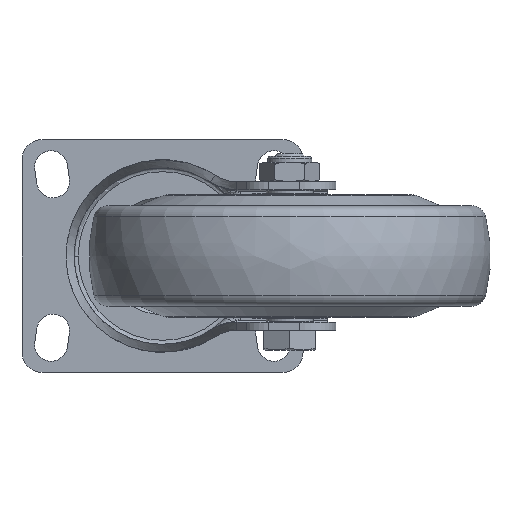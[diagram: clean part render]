
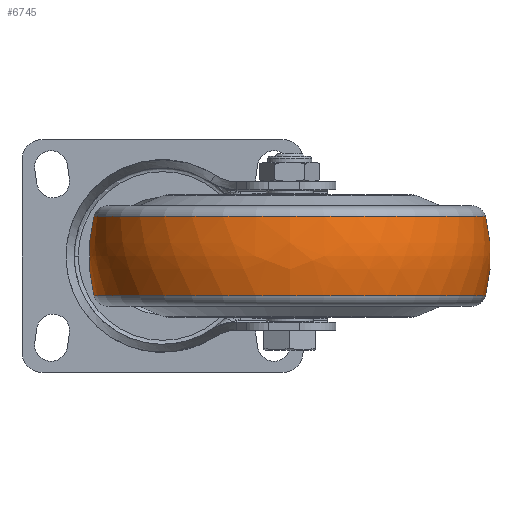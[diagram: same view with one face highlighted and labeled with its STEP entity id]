
A CAD part, front view. The second image highlights one B-rep face of the part: STEP entity #6745.
In plain terms, the highlighted free-form (B-spline) face has degree [3, 3] with [7, 4] control points.
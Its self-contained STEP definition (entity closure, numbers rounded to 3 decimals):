
#6247=CARTESIAN_POINT('',(0.,10.,0.));
#6248=DIRECTION('',(0.,0.,1.));
#6249=DIRECTION('',(0.247,0.969,0.));
#6250=AXIS2_PLACEMENT_3D('',#6247,#6248,#6249);
#6252=CARTESIAN_POINT('',(0.,-10.,0.));
#6253=DIRECTION('',(0.,0.,-1.));
#6254=DIRECTION('',(0.247,-0.969,0.));
#6255=AXIS2_PLACEMENT_3D('',#6252,#6253,#6254);
#6257=CARTESIAN_POINT('',(9.863,0.,0.));
#6258=DIRECTION('',(-1.,0.,0.));
#6259=DIRECTION('',(0.,1.,0.));
#6260=AXIS2_PLACEMENT_3D('',#6257,#6258,#6259);
#6282=CARTESIAN_POINT('',(-9.863,0.,0.));
#6283=DIRECTION('',(-1.,0.,0.));
#6284=DIRECTION('',(0.,1.,0.));
#6285=AXIS2_PLACEMENT_3D('',#6282,#6283,#6284);
#6436=CARTESIAN_POINT('',(9.863,48.765,0.));
#6438=VERTEX_POINT('',#6436);
#6439=CARTESIAN_POINT('',(-9.863,48.765,0.));
#6440=VERTEX_POINT('',#6439);
#6476=CARTESIAN_POINT('',(9.863,-48.765,
0.));
#6478=VERTEX_POINT('',#6476);
#6479=CARTESIAN_POINT('',(-9.863,-48.765,
0.));
#6480=VERTEX_POINT('',#6479);
#6707=CARTESIAN_POINT('',(-10.249,-48.569,
3.056));
#6708=CARTESIAN_POINT('',(-3.494,-50.356,
3.168));
#6709=CARTESIAN_POINT('',(3.494,-50.356,3.168));
#6710=CARTESIAN_POINT('',(10.249,-48.569,3.056));
#6711=CARTESIAN_POINT('',(-10.249,-50.449,
-26.833));
#6712=CARTESIAN_POINT('',(-3.494,-52.305,
-27.821));
#6713=CARTESIAN_POINT('',(3.494,-52.305,
-27.821));
#6714=CARTESIAN_POINT('',(10.249,-50.449,
-26.833));
#6715=CARTESIAN_POINT('',(-10.249,-29.948,
-48.665));
#6716=CARTESIAN_POINT('',(-3.494,-31.05,
-50.455));
#6717=CARTESIAN_POINT('',(3.494,-31.05,
-50.455));
#6718=CARTESIAN_POINT('',(10.249,-29.948,
-48.665));
#6719=CARTESIAN_POINT('',(-10.249,0.,
-48.665));
#6720=CARTESIAN_POINT('',(-3.494,0.,
-50.455));
#6721=CARTESIAN_POINT('',(3.494,0.,
-50.455));
#6722=CARTESIAN_POINT('',(10.249,0.,
-48.665));
#6723=CARTESIAN_POINT('',(-10.249,29.948,
-48.665));
#6724=CARTESIAN_POINT('',(-3.494,31.05,
-50.455));
#6725=CARTESIAN_POINT('',(3.494,31.05,-50.455));
#6726=CARTESIAN_POINT('',(10.249,29.948,-48.665));
#6727=CARTESIAN_POINT('',(-10.249,50.449,
-26.833));
#6728=CARTESIAN_POINT('',(-3.494,52.305,
-27.821));
#6729=CARTESIAN_POINT('',(3.494,52.305,-27.821));
#6730=CARTESIAN_POINT('',(10.249,50.449,-26.833));
#6731=CARTESIAN_POINT('',(-10.249,48.569,3.056));
#6732=CARTESIAN_POINT('',(-3.494,50.356,3.168));
#6733=CARTESIAN_POINT('',(3.494,50.356,3.168));
#6734=CARTESIAN_POINT('',(10.249,48.569,3.056));
#6735=(BOUNDED_SURFACE()B_SPLINE_SURFACE(3,3,((#6707,#6708,#6709,#6710),(#6711,
#6712,#6713,#6714),(#6715,#6716,#6717,#6718),(#6719,#6720,#6721,#6722),(#6723,
#6724,#6725,#6726),(#6727,#6728,#6729,#6730),(#6731,#6732,#6733,#6734)),
.UNSPECIFIED.,.F.,.F.,.F.)B_SPLINE_SURFACE_WITH_KNOTS((4,3,4),(4,4),(0.,1.,
2.),(0.,1.),.UNSPECIFIED.)GEOMETRIC_REPRESENTATION_ITEM()RATIONAL_B_SPLINE_SURFACE(((1.207,1.181,1.181,1.207),(
0.953,0.932,0.932,0.953),(
0.953,0.932,0.932,0.953),(
1.207,1.181,1.181,1.207),(
0.953,0.932,0.932,0.953),(
0.953,0.932,0.932,0.953),(
1.207,1.181,1.181,1.207)))REPRESENTATION_ITEM('')SURFACE());
#6737=ORIENTED_EDGE('',*,*,#6736,.T.);
#6739=ORIENTED_EDGE('',*,*,#6738,.T.);
#6741=ORIENTED_EDGE('',*,*,#6740,.F.);
#6742=ORIENTED_EDGE('',*,*,#6700,.F.);
#6743=EDGE_LOOP('',(#6737,#6739,#6741,#6742));
#6744=FACE_OUTER_BOUND('',#6743,.F.);
#6251=CIRCLE('',#6250,40.);
#6256=CIRCLE('',#6255,40.);
#6261=CIRCLE('',#6260,48.765);
#6286=CIRCLE('',#6285,48.765);
#6700=EDGE_CURVE('',#6438,#6478,#6261,.T.);
#6736=EDGE_CURVE('',#6438,#6440,#6251,.T.);
#6738=EDGE_CURVE('',#6440,#6480,#6286,.T.);
#6740=EDGE_CURVE('',#6478,#6480,#6256,.T.);
#6745=ADVANCED_FACE('',(#6744),#6735,.T.);
